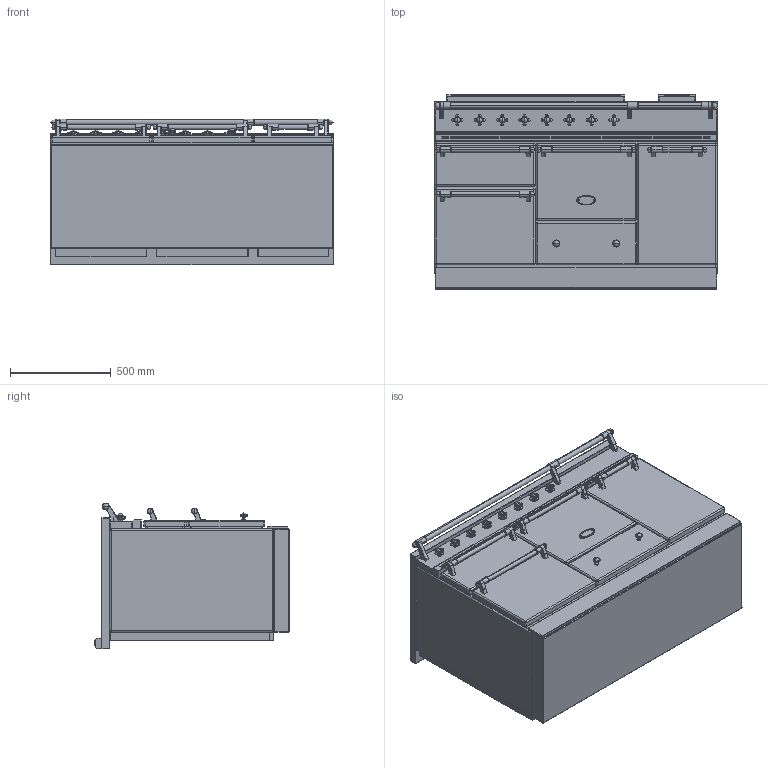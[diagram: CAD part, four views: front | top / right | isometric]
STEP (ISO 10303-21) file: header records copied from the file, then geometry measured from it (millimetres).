
FILE_DESCRIPTION((''),'2;1');
FILE_NAME('LVI1453D_ASM','2021-12-02T10:05:30',('j.cheno'),(''),'CREO PARAMETRIC BY PTC INC, 2017260','CREO PARAMETRIC BY PTC INC, 2017260','');
FILE_SCHEMA(('AP203_CONFIGURATION_CONTROLLED_3D_DESIGN_OF_MECHANICAL_PARTS_AND_ASSEMBLIES_MIM_LF { 1 0 10303 403 2 1 2 }'));
Products named in the file (20): BASE_EXPORT_CHAGNY_1400D; 65650003; 65650004; 6531940; 6531941; 6538399; 1931942; 65080022_AF0; 6531942_ASM; 6531943; 65049009; 65650001; 65650006; BASE_EXPORT_CHAGNY_1400D_ASM; TABLE_1405D_INDUCTION; 65052013; CHEMINEE_2020_LG182_EXPORT_STEP; CHEMINEE_2020_LG882_EXPORT_STEP; TABLE_1405D_INDUCTION_ASM; LVI1453D_ASM
Assembly tree (33 placements, depth 4):
  LVI1453D_ASM
    BASE_EXPORT_CHAGNY_1400D_ASM
      BASE_EXPORT_CHAGNY_1400D
      65650003
      65650004
      6531940  x4
      6531941  x4
      6531942_ASM  x8
        6538399
        1931942
        65080022_AF0
      6531943  x2
      65049009
      65650001
      65650006
    TABLE_1405D_INDUCTION_ASM
      TABLE_1405D_INDUCTION
      65052013
      CHEMINEE_2020_LG182_EXPORT_STEP
      CHEMINEE_2020_LG882_EXPORT_STEP
Bounding box: 1405 x 963 x 724 mm (x, y, z)
Volume: 760261761.4 mm3; surface area: 11735157.2 mm2
Topology: 53 solids, 66 shells, 5988 faces, 16163 edges, 10345 vertices
Faces by surface type: plane 3130, cylinder 1910, torus 277, extrusion 226, sphere 214, cone 108, bspline 103, revolution 20
Entity records: 133436 total; most frequent: CARTESIAN_POINT 28722, ORIENTED_EDGE 19122, DIRECTION 18278, EDGE_CURVE 9573, VECTOR 6507, LINE 6477, VERTEX_POINT 6212, AXIS2_PLACEMENT_3D 5853
